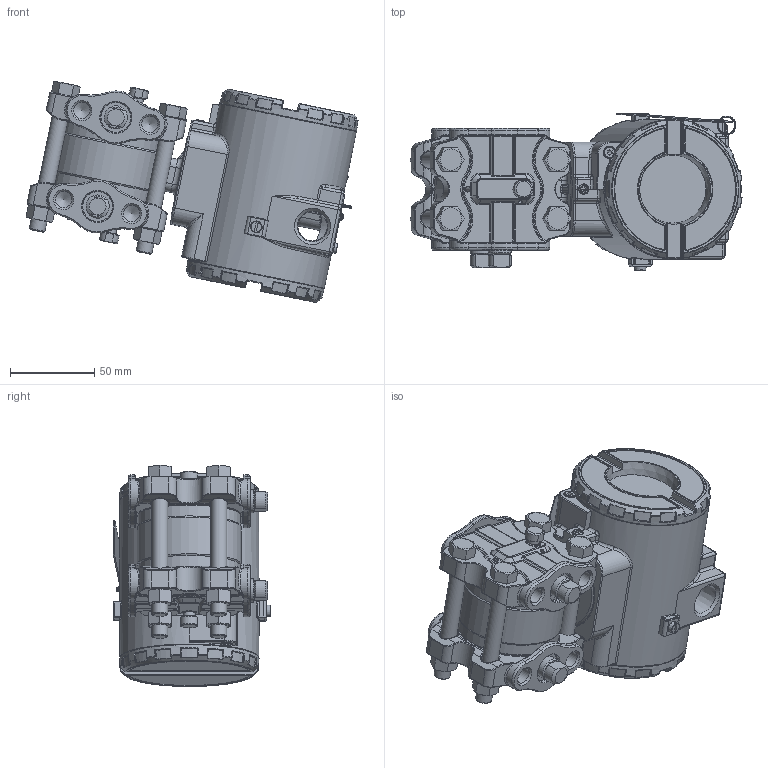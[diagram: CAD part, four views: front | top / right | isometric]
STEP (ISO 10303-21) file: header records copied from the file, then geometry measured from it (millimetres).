
FILE_DESCRIPTION(/* description */ (''),/* implementation_level */ '2;1');
FILE_NAME(/* name */ 'F:\Area\Desenvolvimento_2\Projects\Sensor\projetos\LD30X\montagens 3d - clientes\LD30XD0-3 1-4NPT purga acima.stp',/* time_stamp */ '2023-01-26T11:41:19-03:00',/* author */ ('inventor02'),/* organization */ (''),/* preprocessor_version */ 'ST-DEVELOPER v17',/* originating_system */ 'Autodesk Inventor 2019',/* authorisation */ '');
FILE_SCHEMA (('CONFIG_CONTROL_DESIGN'));
Length unit declared in the file: millimetre
Products named in the file (29): LD30XD0-3 1-4NPT purga cima; diferencial FX0-3 sem adaptador purga acima; involucro fx0-3 apos a usinagem final; Sangria; bujao 1-4NPT; flange diferencial std purga; Paraf. 3-8 x 16 UNC; Porca 3-8 x 16 UNC; carcaça vazia com tampas e plaqueta; carcaça LD inox sem letras; Subconjunto plaqueta 300; Plaqueta transmissor; Parafuso da Plaqueta; Rebite da Plaqueta; 096-A-0169-03; 101-A-0502-01; Chapa aterramento externo; ISO 1207 - M4 x 8; DIN 915 - M6 x 10; ANSI B18.3.1M - M4x0,7 x 8; Subconjunto tampa com visor aluminio; tampa pintada; VIDRO DO VISOR; oring 41x1 vidro tampa; Trava do vidro da tampa com visor; trava do vidro VH256; Subconjunto tampa sem visor-aluminio; tampa cega 300 pintada p0; 00034775-0
Assembly tree (39 placements, depth 4):
  LD30XD0-3 1-4NPT purga cima
    diferencial FX0-3 sem adaptador purga acima
      involucro fx0-3 apos a usinagem final
      flange diferencial std purga  x2
      bujao 1-4NPT  x2
      Sangria  x2
      Paraf. 3-8 x 16 UNC  x4
      Porca 3-8 x 16 UNC  x4
    carcaça vazia com tampas e plaqueta
      carcaça LD inox sem letras
      Subconjunto plaqueta 300
        Plaqueta transmissor
        Parafuso da Plaqueta
        Rebite da Plaqueta
        096-A-0169-03
        101-A-0502-01
      Chapa aterramento externo
      ISO 1207 - M4 x 8
      DIN 915 - M6 x 10
      ANSI B18.3.1M - M4x0,7 x 8  x2
      Subconjunto tampa com visor aluminio
        tampa pintada
        VIDRO DO VISOR
        oring 41x1 vidro tampa
        Trava do vidro da tampa com visor
        trava do vidro VH256
        00034775-0
      Subconjunto tampa sem visor-aluminio
        tampa cega 300 pintada p0
        00034775-0
Bounding box: 197.58 x 93.95 x 131.53 mm (x, y, z)
Volume: 585709.6 mm3; surface area: 231164.3 mm2
Topology: 34 solids, 34 shells, 2594 faces, 6213 edges, 3649 vertices
Faces by surface type: bspline 673, cylinder 631, plane 496, torus 436, cone 237, sphere 121
Full cylindrical faces by diameter (mm): 2 x4, 2.1 x2, 2.459 x5, 2.642 x1, 2.7 x1, 3 x5, 3.242 x4, 3.5 x4, 3.571 x1, 4 x4, 4.3 x1, 4.4 x1, 4.917 x1, 5.5 x6, 6 x2, 6.647 x2, 7 x6, 7.087 x2, 7.6 x2, 7.798 x4, 8 x2, 8.7 x2, 9.525 x4, 9.728 x8, 10.5 x8, 10.719 x4, 13.8 x2, 14 x1, 17.475 x2, 18.5 x4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
Entity records: 76411 total; most frequent: CARTESIAN_POINT 29137, ORIENTED_EDGE 9830, DIRECTION 9589, EDGE_CURVE 4915, AXIS2_PLACEMENT_3D 4212, VERTEX_POINT 2914, CIRCLE 2473, EDGE_LOOP 2181
